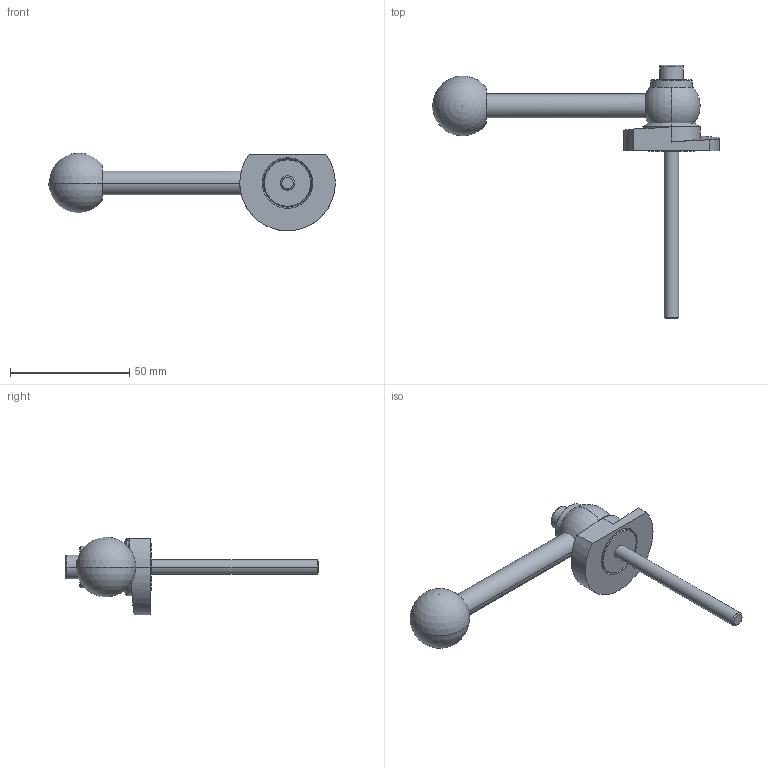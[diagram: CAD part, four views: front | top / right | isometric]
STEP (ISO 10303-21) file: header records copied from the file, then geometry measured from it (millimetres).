
FILE_DESCRIPTION (( 'STEP AP214' ), '1' );
FILE_NAME ('918.1-40-GVS-R-70.step', '2024-05-15T12:59:52', ( '' ), ( '' ), 'SwSTEP 2.0', 'SolidWorks 2022', '' );
FILE_SCHEMA (( 'AUTOMOTIVE_DESIGN' ));
Length unit declared in the file: millimetre
Products named in the file (1): 918.1-40-GVS-R-70
Bounding box: 120 x 106 x 32.5 mm (x, y, z)
Volume: 31486.9 mm3; surface area: 12058.6 mm2
Topology: 1 solids, 1 shells, 64 faces, 147 edges, 93 vertices
Faces by surface type: cylinder 22, plane 20, cone 14, sphere 4, torus 2, bspline 2
Entity records: 2045 total; most frequent: CARTESIAN_POINT 590, DIRECTION 321, ORIENTED_EDGE 274, EDGE_CURVE 137, AXIS2_PLACEMENT_3D 131, VERTEX_POINT 87, EDGE_LOOP 76, CIRCLE 68
